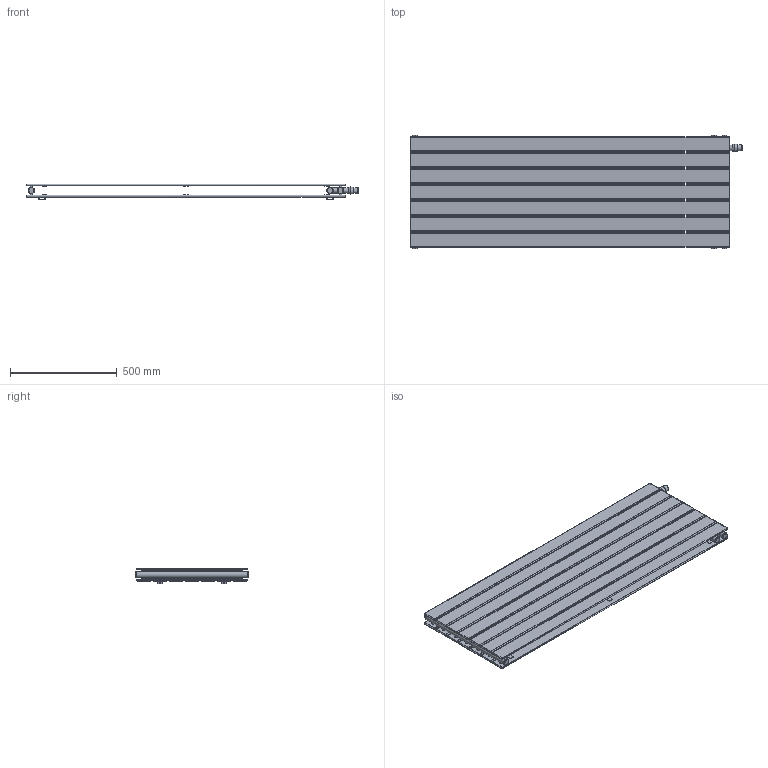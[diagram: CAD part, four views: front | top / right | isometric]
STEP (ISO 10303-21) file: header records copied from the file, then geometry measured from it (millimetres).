
FILE_DESCRIPTION(/* description */ (''),/* implementation_level */ '2;1');
FILE_NAME(/* name */ 'C:\Grzejniki\13DLUXRAD\pokojowe\NIAGARA\to\NIAGARA PODWÓJNA POZIOMA Z WKŁADKĄ TERMOSTATYCZNĄ 520x1500.iam.stp',/* time_stamp */ '2016-06-28T17:33:41+02:00',/* author */ ('m.szydziak'),/* organization */ (''),/* preprocessor_version */ 'ST-DEVELOPER v16.5',/* originating_system */ 'Autodesk Inventor 2017',/* authorisation */ '');
FILE_SCHEMA (('AUTOMOTIVE_DESIGN { 1 0 10303 214 3 1 1 }'));
Length unit declared in the file: millimetre
Products named in the file (9): NIAGARA PODWÓJNA POZIOMA Z WKŁADKĄ TERMOSTA
TYCZNĄ 520x1500; NIAGARA PODWÓJNA 1500x520; 70x8x1,2x1504; michałek; poprzeczka 470; ucho małe; fi30x1,5x520; Głowica Termostatyczna; korek
Assembly tree (63 placements, depth 3):
  NIAGARA PODWÓJNA POZIOMA Z WKŁADKĄ TERMOSTA
TYCZNĄ 520x1500
    NIAGARA PODWÓJNA 1500x520
      fi30x1,5x520  x2
      70x8x1,2x1504  x14
      michałek  x28
      poprzeczka 470  x6
      ucho małe  x4
      korek  x4
    fi30x1,5x520
    Głowica Termostatyczna
    korek  x2
Bounding box: 1556.85 x 532 x 75 mm (x, y, z)
Volume: 4132368.1 mm3; surface area: 6574342.6 mm2
Topology: 62 solids, 62 shells, 806 faces, 1791 edges, 1093 vertices
Faces by surface type: plane 380, cylinder 292, sphere 112, bspline 16, torus 4, cone 2
Full cylindrical faces by diameter (mm): 8 x28, 9 x28, 10 x28, 11.5 x28, 18.631 x6, 24 x6, 25 x1, 27 x3, 28 x1, 30 x3
Entity records: 3968 total; most frequent: CARTESIAN_POINT 931, DIRECTION 658, ORIENTED_EDGE 452, AXIS2_PLACEMENT_3D 267, EDGE_CURVE 226, VERTEX_POINT 150, EDGE_LOOP 142, LINE 124
